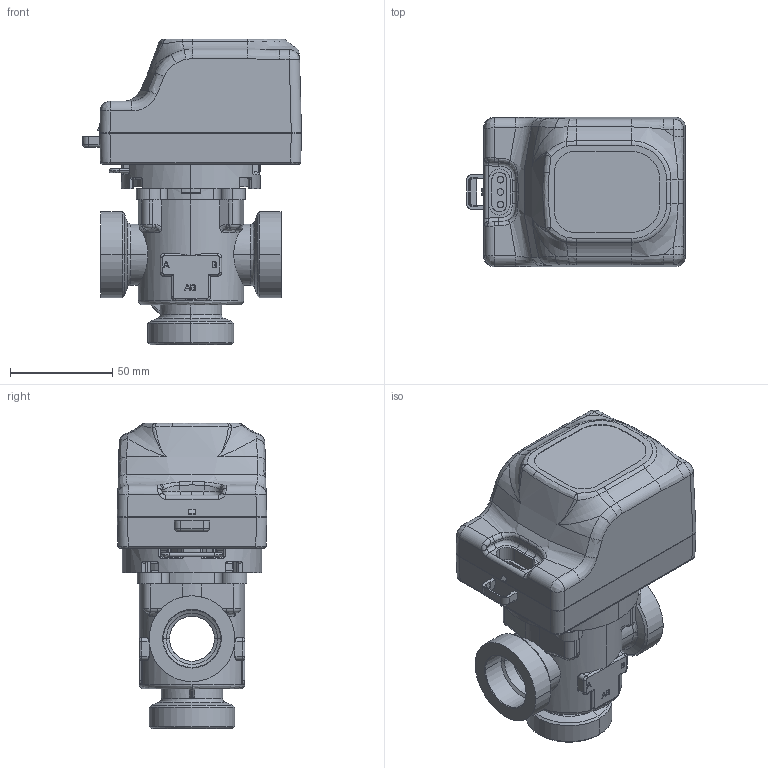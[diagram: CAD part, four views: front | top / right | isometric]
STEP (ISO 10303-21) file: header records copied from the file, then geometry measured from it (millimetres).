
FILE_DESCRIPTION (( 'STEP AP214' ), '1' );
FILE_NAME ('1684410.STEP', '2023-10-12T07:43:11', ( '' ), ( '' ), 'SwSTEP 2.0', 'SolidWorks 2022', '' );
FILE_SCHEMA (( 'AUTOMOTIVE_DESIGN' ));
Length unit declared in the file: millimetre
Products named in the file (20): 907380 5010_Linsenschr. ISO7380 M5x10 ST verz._0_4; 05 01 001162_Aufnahmesockel _X_D847 AZV; 907380 5010_Linsenschr. ISO7380 M5x10 ST verz._0_2; Elektroantrieb_AZV_Baugruppe; 709 000 0022 _W_X_FCplast-LiKo Schraube 3x12 T10; 05 01 001146_Geh_X_E4use AZV G5_4 3-Wege MS; 709 000 0022 _W_X_FCplast-LiKo Schraube 3x12 T10_5; 1684410; 709 000 0022 _W_X_FCplast-LiKo Schraube 3x12 T10_2; 709 000 0022 _W_X_FCplast-LiKo Schraube 3x12 T10_3; 907380 5010_Linsenschr. ISO7380 M5x10 ST verz._0; 709 000 0022 _W_X_FCplast-LiKo Schraube 3x12 T10_4; 05 01 001164_Codierclip gr_X_FCn AZV; 05 01 001170_Geh_X_E4use-OT Antrieb AZV; 05 01 001171_Geh_X_E4use-UT Antrieb AZV; 709 000 0022 _W_X_FCplast-LiKo Schraube 3x12 T10_6; 05 01 001165_Stellungsanzeiger AZV; 907380 5010_Linsenschr. ISO7380 M5x10 ST verz._0_3; 900000 4000_Sicherungsscheibe _X_F84 verz. BN833_2; 05 01 001168_Federklammer
Assembly tree (20 placements, depth 3):
  1684410
    907380 5010_Linsenschr. ISO7380 M5x10 ST verz._0
    907380 5010_Linsenschr. ISO7380 M5x10 ST verz._0_2
    907380 5010_Linsenschr. ISO7380 M5x10 ST verz._0_3
    907380 5010_Linsenschr. ISO7380 M5x10 ST verz._0_4
    05 01 001168_Federklammer
    05 01 001164_Codierclip gr_X_FCn AZV  x2
    05 01 001146_Geh_X_E4use AZV G5_4 3-Wege MS
    05 01 001165_Stellungsanzeiger AZV
    05 01 001162_Aufnahmesockel _X_D847 AZV
    Elektroantrieb_AZV_Baugruppe
      709 000 0022 _W_X_FCplast-LiKo Schraube 3x12 T10
      709 000 0022 _W_X_FCplast-LiKo Schraube 3x12 T10_2
      709 000 0022 _W_X_FCplast-LiKo Schraube 3x12 T10_3
      709 000 0022 _W_X_FCplast-LiKo Schraube 3x12 T10_4
      709 000 0022 _W_X_FCplast-LiKo Schraube 3x12 T10_5
      709 000 0022 _W_X_FCplast-LiKo Schraube 3x12 T10_6
      900000 4000_Sicherungsscheibe _X_F84 verz. BN833_2
      05 01 001170_Geh_X_E4use-OT Antrieb AZV
      05 01 001171_Geh_X_E4use-UT Antrieb AZV
Bounding box: 106.91 x 73 x 149.25 mm (x, y, z)
Volume: 172630.4 mm3; surface area: 143669.2 mm2
Topology: 19 solids, 19 shells, 3171 faces, 8187 edges, 5090 vertices
Faces by surface type: plane 1184, cylinder 1055, bspline 592, cone 312, torus 28
Entity records: 175744 total; most frequent: CARTESIAN_POINT 72362, ORIENTED_EDGE 15460, DIRECTION 13042, EDGE_CURVE 7730, VERTEX_POINT 4856, AXIS2_PLACEMENT_3D 4713, LINE 3616, VECTOR 3616
